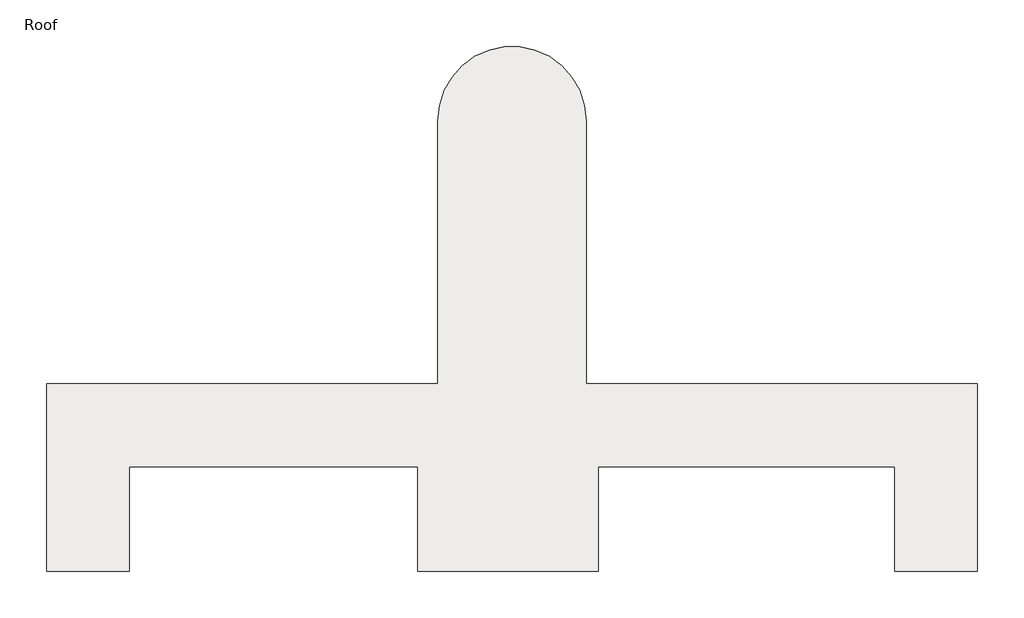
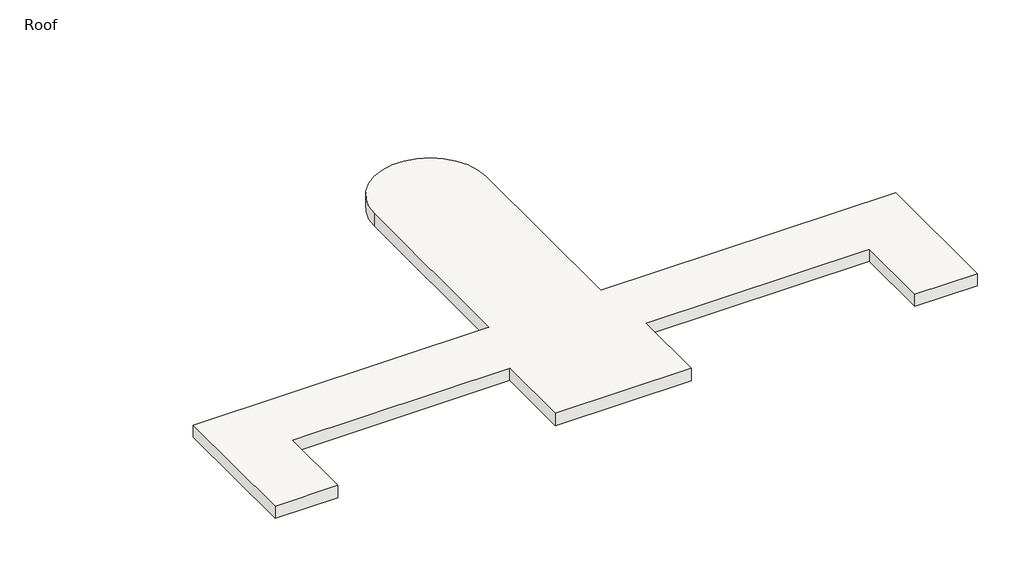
# One storey: 1 roof.
"""IFC4 building model written with IfcOpenShell, lengths in millimetres."""

from ifc_helpers import new_model, si_unit, point, frame, frame_2d, origin, place, context, project, spatial, polyline, circle_curve, trimmed, segment, composite_curve, outline, extrude, element, save

model = new_model("IFC4")

# Units and contexts
model_context = context("Model", 3, world=origin())
ifc_project = project(units=[si_unit("LENGTHUNIT", "METRE", prefix="MILLI")], contexts=[model_context])

# Site, building, storey
site = spatial("IfcSite", under=ifc_project)
building = spatial("IfcBuilding", under=site)
storey = spatial("IfcBuildingStorey", under=building, Name="Roof", Elevation=12192.0)

# Roof
placement = place(None, origin())
element("IfcRoof", 1, ObjectType="Generic - 400mm", at=placement, inside=storey, context=model_context, shape_type="SweptSolid", body=[
    extrude(outline(composite_curve([segment(trimmed(circle_curve(frame_2d((2489.0924567, 5210.2556601)), 1730.0), [point((759.0924567, 5210.2556601))], [point((4219.0924567, 5210.2556601))], False, "CARTESIAN"), True, "CONTINUOUS"), segment(polyline([(4219.0924567, 5210.2556601), (4219.0924567, -939.7443399), (13363.0924567, -939.7443399), (13363.0924567, -5314.1443399), (11427.0924567, -5314.1443399), (11427.0924567, -2875.7443399), (4506.0924567, -2875.7443399), (4506.0924567, -5314.1443399), (284.0924567, -5314.1443399), (284.0924567, -2875.7443399), (-6448.9075433, -2875.7443399), (-6448.9075433, -5314.1443399), (-8384.9075433, -5314.1443399), (-8384.9075433, -939.7443399), (759.0924567, -939.7443399), (759.0924567, 5210.2556601)]), True, "CONTINUOUS")], self_intersect=False)), frame((0.0, 0.0, 12192.0), z_axis=(0.0, 0.0, 1.0), x_axis=(1.0, 0.0, 0.0)), (0.0, 0.0, 1.0), 400.0),
])

save(model, "model.ifc")
